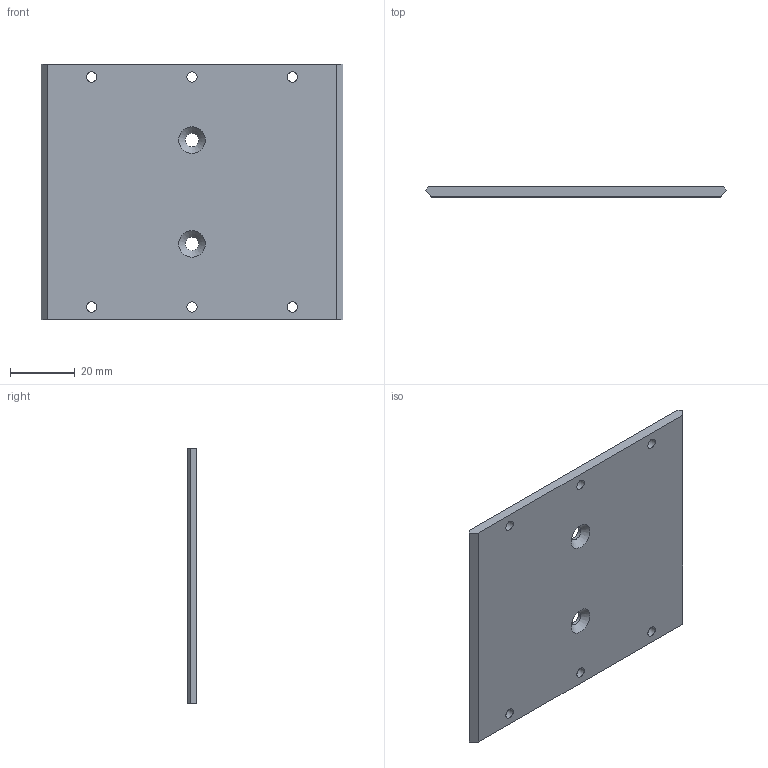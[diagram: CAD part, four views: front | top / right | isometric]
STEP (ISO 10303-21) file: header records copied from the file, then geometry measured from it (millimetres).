
FILE_DESCRIPTION(/* description */ ('STEP AP242','CAx-IF Rec.Pracs.---Representation and Presentation of Product Manufacturing Information (PMI)---4.0---2014-10-13','CAx-IF Rec.Pracs.---3D Tessellated Geometry---0.4---2014-09-14','2;1'),/* implementation_level */ '2;1');
FILE_NAME(/* name */ 'Case - Part 4',/* time_stamp */ '2024-08-18T13:23:26Z',/* author */ (''),/* organization */ (''),/* preprocessor_version */ 'ST-DEVELOPER v20',/* originating_system */ ' ',/* authorisation */ ' ');
FILE_SCHEMA (('AP242_MANAGED_MODEL_BASED_3D_ENGINEERING_MIM_LF { 1 0 10303 442 1 1 4 }'));
Length unit declared in the file: metre
Products named in the file (1): Part 4
Bounding box: 93 x 3 x 79 mm (x, y, z)
Volume: 21348.6 mm3; surface area: 15526 mm2
Topology: 1 solids, 1 shells, 18 faces, 46 edges, 30 vertices
Faces by surface type: plane 8, cylinder 8, cone 2
Full cylindrical faces by diameter (mm): 3.2 x6, 4.2 x2
Entity records: 556 total; most frequent: DIRECTION 92, CARTESIAN_POINT 85, ORIENTED_EDGE 72, EDGE_LOOP 44, FACE_BOUND 44, AXIS2_PLACEMENT_3D 37, EDGE_CURVE 36, VERTEX_POINT 30
